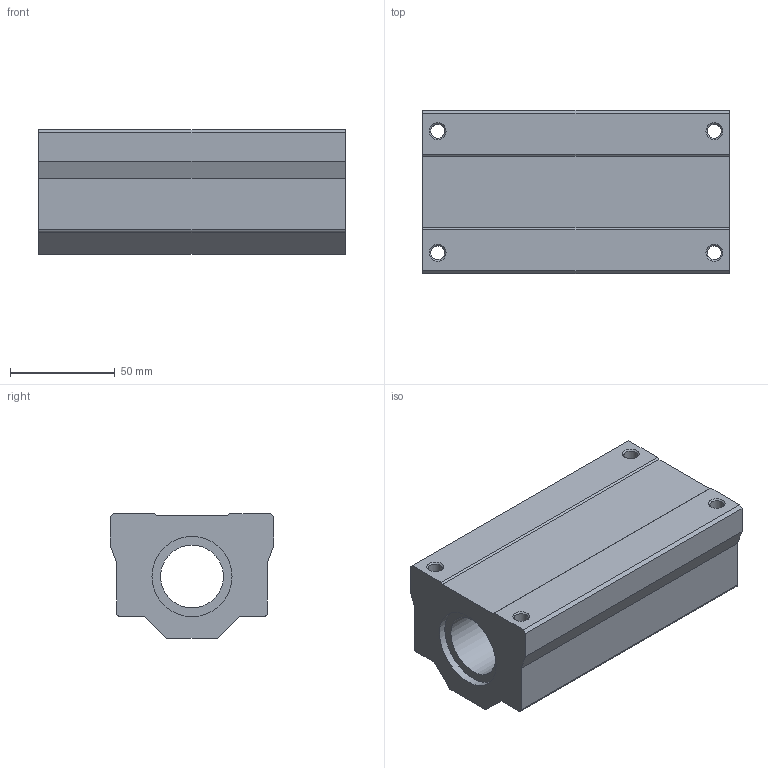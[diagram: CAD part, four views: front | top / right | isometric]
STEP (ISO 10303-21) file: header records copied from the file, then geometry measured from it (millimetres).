
FILE_DESCRIPTION( ( 'Unknown' ), '1' );
FILE_NAME( 'D:/累诀/己绕皋墨飘肺葱胶/11-04-06_档搁累己/01_府聪绢何教/SC W/SC 30W.stp', 'Unknown', ( 'Unknown' ), ( 'Unknown' ), 'PSStep 11.0', 'Unknown', ' ' );
FILE_SCHEMA( ( 'AUTOMOTIVE_DESIGN { 1 0 10303 214 1 1 1 1 }' ) );
Length unit declared in the file: millimetre
Products named in the file (1): 1
Bounding box: 146 x 78 x 59.5 mm (x, y, z)
Volume: 467420.1 mm3; surface area: 61531.4 mm2
Topology: 1 solids, 1 shells, 39 faces, 109 edges, 74 vertices
Faces by surface type: plane 22, cylinder 13, cone 4
Full cylindrical faces by diameter (mm): 6.647 x8, 30 x1, 38.25 x2
Entity records: 1426 total; most frequent: DIRECTION 188, CARTESIAN_POINT 184, ORIENTED_EDGE 164, EDGE_CURVE 82, AXIS2_PLACEMENT_3D 66, EDGE_LOOP 66, VERTEX_POINT 62, LINE 56
